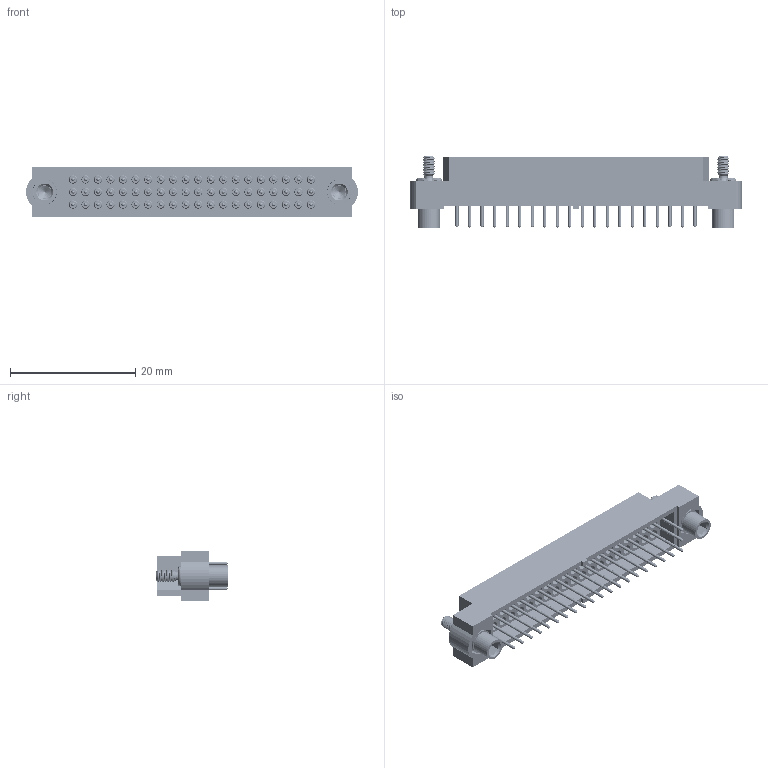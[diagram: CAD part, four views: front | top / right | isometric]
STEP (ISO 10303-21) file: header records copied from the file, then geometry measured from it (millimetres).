
FILE_DESCRIPTION((''),'2;1');
FILE_NAME('M83-LFT1F2N60-0000-000_ASM','2011-11-30T',('WBOURNE'),(''),'PRO/ENGINEER BY PARAMETRIC TECHNOLOGY CORPORATION, 2010280','PRO/ENGINEER BY PARAMETRIC TECHNOLOGY CORPORATION, 2010280','');
FILE_SCHEMA(('CONFIG_CONTROL_DESIGN','SHAPE_APPEARANCE_LAYERS_GROUPS'));
Length unit declared in the file: millimetre
Products named in the file (7): M83-261-00-60-00; M83-027; Y3198; M83-028_ASM; M83-2200001_ASSEMBLED; M83-2210000; M83-LFT1F2N60-0000-000_ASM
Assembly tree (67 placements, depth 3):
  M83-LFT1F2N60-0000-000_ASM
    M83-261-00-60-00
    M83-028_ASM  x60
      M83-027
      Y3198
    M83-2200001_ASSEMBLED  x2
    M83-2210000  x2
Bounding box: 53 x 11.4 x 8 mm (x, y, z)
Volume: 1773.9 mm3; surface area: 6451.6 mm2
Topology: 125 solids, 127 shells, 6443 faces, 14826 edges, 8698 vertices
Faces by surface type: bspline 2806, plane 1399, cylinder 1250, cone 740, torus 128, sphere 120
Entity records: 32492 total; most frequent: CARTESIAN_POINT 9666, DIRECTION 3755, ORIENTED_EDGE 3390, PRESENTATION_STYLE_ASSIGNMENT 1703, STYLED_ITEM 1703, CURVE_STYLE 1697, EDGE_CURVE 1697, AXIS2_PLACEMENT_3D 1538
